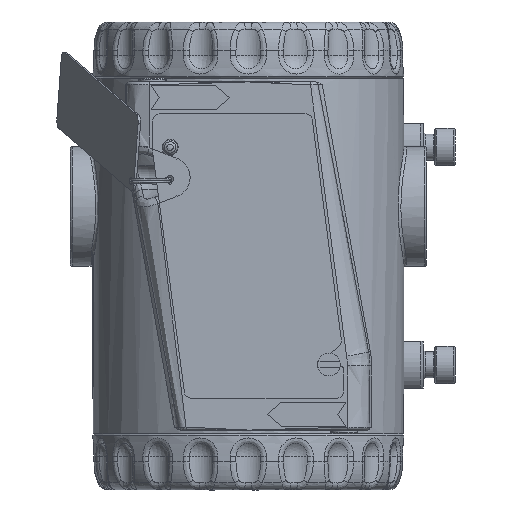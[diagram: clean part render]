
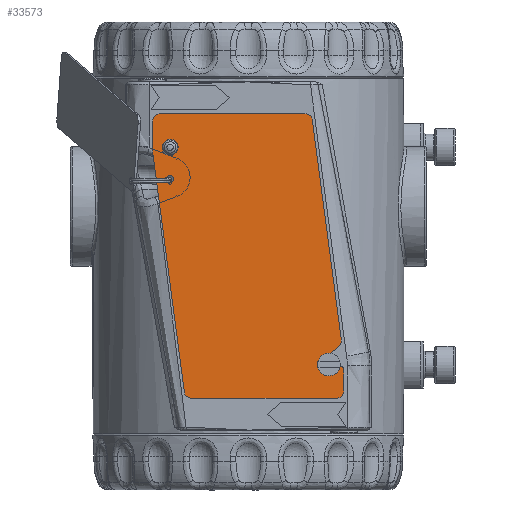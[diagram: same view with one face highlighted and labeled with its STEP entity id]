
A CAD part, left-side view. The second image highlights one B-rep face of the part: STEP entity #33573.
In plain terms, the highlighted planar face has unit normal (-1, 0, 0) as drawn and (0, 0, 1) by its records, which use the part's own axes.
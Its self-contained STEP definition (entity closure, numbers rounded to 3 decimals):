
#1078=PLANE('',#37589);
#1604=FACE_BOUND('',#9123,.T.);
#1605=FACE_BOUND('',#9124,.T.);
#2938=LINE('',#73711,#4483);
#2942=LINE('',#73723,#4487);
#2946=LINE('',#73735,#4491);
#2950=LINE('',#73747,#4495);
#2954=LINE('',#73759,#4499);
#2957=LINE('',#73765,#4502);
#2961=LINE('',#73777,#4506);
#2965=LINE('',#73788,#4510);
#4483=VECTOR('',#45830,10.);
#4487=VECTOR('',#45842,10.);
#4491=VECTOR('',#45854,10.);
#4495=VECTOR('',#45866,10.);
#4499=VECTOR('',#45878,10.);
#4502=VECTOR('',#45883,10.);
#4506=VECTOR('',#45895,10.);
#4510=VECTOR('',#45907,10.);
#6955=FACE_OUTER_BOUND('',#9122,.T.);
#9122=EDGE_LOOP('',(#28859,#28860,#28861,#28862,#28863,#28864,#28865,#28866,
#28867,#28868,#28869,#28870,#28871,#28872,#28873));
#9123=EDGE_LOOP('',(#28874));
#9124=EDGE_LOOP('',(#28875));
#11362=CIRCLE('',#37555,1.35);
#11364=CIRCLE('',#37558,1.);
#11365=CIRCLE('',#37560,2.);
#11367=CIRCLE('',#37564,2.);
#11369=CIRCLE('',#37568,1.);
#11371=CIRCLE('',#37572,2.);
#11373=CIRCLE('',#37576,2.);
#11375=CIRCLE('',#37581,2.);
#11377=CIRCLE('',#37585,2.);
#15359=VERTEX_POINT('',#73691);
#15361=VERTEX_POINT('',#73697);
#15362=VERTEX_POINT('',#73701);
#15363=VERTEX_POINT('',#73702);
#15366=VERTEX_POINT('',#73710);
#15368=VERTEX_POINT('',#73716);
#15370=VERTEX_POINT('',#73722);
#15372=VERTEX_POINT('',#73728);
#15374=VERTEX_POINT('',#73734);
#15376=VERTEX_POINT('',#73740);
#15378=VERTEX_POINT('',#73746);
#15380=VERTEX_POINT('',#73752);
#15382=VERTEX_POINT('',#73758);
#15384=VERTEX_POINT('',#73764);
#15386=VERTEX_POINT('',#73770);
#15388=VERTEX_POINT('',#73776);
#15390=VERTEX_POINT('',#73782);
#19937=EDGE_CURVE('',#15359,#15359,#11362,.T.);
#19940=EDGE_CURVE('',#15361,#15361,#11364,.T.);
#19941=EDGE_CURVE('',#15362,#15363,#11365,.T.);
#19945=EDGE_CURVE('',#15363,#15366,#2938,.T.);
#19948=EDGE_CURVE('',#15366,#15368,#11367,.T.);
#19951=EDGE_CURVE('',#15368,#15370,#2942,.T.);
#19954=EDGE_CURVE('',#15370,#15372,#11369,.T.);
#19957=EDGE_CURVE('',#15372,#15374,#2946,.T.);
#19960=EDGE_CURVE('',#15374,#15376,#11371,.T.);
#19963=EDGE_CURVE('',#15376,#15378,#2950,.T.);
#19966=EDGE_CURVE('',#15378,#15380,#11373,.T.);
#19969=EDGE_CURVE('',#15380,#15382,#2954,.T.);
#19972=EDGE_CURVE('',#15382,#15384,#2957,.T.);
#19975=EDGE_CURVE('',#15384,#15386,#11375,.T.);
#19978=EDGE_CURVE('',#15386,#15388,#2961,.T.);
#19981=EDGE_CURVE('',#15388,#15390,#11377,.T.);
#19984=EDGE_CURVE('',#15390,#15362,#2965,.T.);
#28859=ORIENTED_EDGE('',*,*,#19941,.F.);
#28860=ORIENTED_EDGE('',*,*,#19984,.F.);
#28861=ORIENTED_EDGE('',*,*,#19981,.F.);
#28862=ORIENTED_EDGE('',*,*,#19978,.F.);
#28863=ORIENTED_EDGE('',*,*,#19975,.F.);
#28864=ORIENTED_EDGE('',*,*,#19972,.F.);
#28865=ORIENTED_EDGE('',*,*,#19969,.F.);
#28866=ORIENTED_EDGE('',*,*,#19966,.F.);
#28867=ORIENTED_EDGE('',*,*,#19963,.F.);
#28868=ORIENTED_EDGE('',*,*,#19960,.F.);
#28869=ORIENTED_EDGE('',*,*,#19957,.F.);
#28870=ORIENTED_EDGE('',*,*,#19954,.F.);
#28871=ORIENTED_EDGE('',*,*,#19951,.F.);
#28872=ORIENTED_EDGE('',*,*,#19948,.F.);
#28873=ORIENTED_EDGE('',*,*,#19945,.F.);
#28874=ORIENTED_EDGE('',*,*,#19937,.T.);
#28875=ORIENTED_EDGE('',*,*,#19940,.T.);
#33573=ADVANCED_FACE('',(#6955,#1604,#1605),#1078,.T.);
#37555=AXIS2_PLACEMENT_3D('',#73693,#45811,#45812);
#37558=AXIS2_PLACEMENT_3D('',#73699,#45818,#45819);
#37560=AXIS2_PLACEMENT_3D('',#73703,#45822,#45823);
#37564=AXIS2_PLACEMENT_3D('',#73717,#45835,#45836);
#37568=AXIS2_PLACEMENT_3D('',#73729,#45847,#45848);
#37572=AXIS2_PLACEMENT_3D('',#73741,#45859,#45860);
#37576=AXIS2_PLACEMENT_3D('',#73753,#45871,#45872);
#37581=AXIS2_PLACEMENT_3D('',#73771,#45888,#45889);
#37585=AXIS2_PLACEMENT_3D('',#73783,#45900,#45901);
#37589=AXIS2_PLACEMENT_3D('',#73791,#45911,#45912);
#45811=DIRECTION('center_axis',(0.,0.,-1.));
#45812=DIRECTION('ref_axis',(-1.,0.,0.));
#45818=DIRECTION('center_axis',(0.,0.,-1.));
#45819=DIRECTION('ref_axis',(-1.,0.,0.));
#45822=DIRECTION('center_axis',(0.,0.,-1.));
#45823=DIRECTION('ref_axis',(0.766,0.643,0.));
#45830=DIRECTION('',(0.643,-0.766,0.));
#45835=DIRECTION('center_axis',(0.,0.,1.));
#45836=DIRECTION('ref_axis',(0.766,0.643,0.));
#45842=DIRECTION('',(-0.643,0.766,0.));
#45847=DIRECTION('center_axis',(0.,0.,-1.));
#45848=DIRECTION('ref_axis',(0.,1.,0.));
#45854=DIRECTION('',(1.,0.,0.));
#45859=DIRECTION('center_axis',(0.,0.,-1.));
#45860=DIRECTION('ref_axis',(1.,0.,0.));
#45866=DIRECTION('',(0.,-1.,0.));
#45871=DIRECTION('center_axis',(0.,0.,-1.));
#45872=DIRECTION('ref_axis',(0.131,-0.991,0.));
#45878=DIRECTION('',(-0.991,-0.131,0.));
#45883=DIRECTION('',(-1.,0.,0.));
#45888=DIRECTION('center_axis',(0.,0.,-1.));
#45889=DIRECTION('ref_axis',(-1.,0.,0.));
#45895=DIRECTION('',(0.,1.,0.));
#45900=DIRECTION('center_axis',(0.,0.,-1.));
#45901=DIRECTION('ref_axis',(-0.131,0.991,0.));
#45907=DIRECTION('',(0.991,0.131,0.));
#45911=DIRECTION('center_axis',(0.,0.,1.));
#45912=DIRECTION('ref_axis',(1.,0.,0.));
#73691=CARTESIAN_POINT('',(10.35,4.599,0.7));
#73693=CARTESIAN_POINT('Origin',(9.,4.599,0.7));
#73697=CARTESIAN_POINT('',(18.4,4.599,0.7));
#73699=CARTESIAN_POINT('Origin',(17.4,4.599,0.7));
#73701=CARTESIAN_POINT('',(60.389,50.327,0.7));
#73702=CARTESIAN_POINT('',(62.182,49.63,0.7));
#73703=CARTESIAN_POINT('Origin',(60.65,48.344,0.7));
#73710=CARTESIAN_POINT('',(65.468,45.714,0.7));
#73711=CARTESIAN_POINT('',(65.468,45.714,0.7));
#73716=CARTESIAN_POINT('',(68.532,48.286,0.7));
#73717=CARTESIAN_POINT('Origin',(67.,47.,0.7));
#73722=CARTESIAN_POINT('',(67.633,49.357,0.7));
#73723=CARTESIAN_POINT('',(67.633,49.357,0.7));
#73728=CARTESIAN_POINT('',(68.399,51.,0.7));
#73729=CARTESIAN_POINT('Origin',(68.399,50.,0.7));
#73734=CARTESIAN_POINT('',(74.,51.,0.7));
#73735=CARTESIAN_POINT('',(74.,51.,0.7));
#73740=CARTESIAN_POINT('',(76.,49.,0.7));
#73741=CARTESIAN_POINT('Origin',(74.,49.,0.7));
#73746=CARTESIAN_POINT('',(76.,10.377,0.7));
#73747=CARTESIAN_POINT('',(76.,10.377,0.7));
#73752=CARTESIAN_POINT('',(74.261,8.394,0.7));
#73753=CARTESIAN_POINT('Origin',(74.,10.377,0.7));
#73758=CARTESIAN_POINT('',(10.5,0.,0.7));
#73759=CARTESIAN_POINT('',(10.5,0.,0.7));
#73764=CARTESIAN_POINT('',(2.,0.,0.7));
#73765=CARTESIAN_POINT('',(2.,0.,0.7));
#73770=CARTESIAN_POINT('',(0.,2.,0.7));
#73771=CARTESIAN_POINT('Origin',(2.,2.,0.7));
#73776=CARTESIAN_POINT('',(0.,40.623,0.7));
#73777=CARTESIAN_POINT('',(0.,40.623,0.7));
#73782=CARTESIAN_POINT('',(1.739,42.606,0.7));
#73783=CARTESIAN_POINT('Origin',(2.,40.623,0.7));
#73788=CARTESIAN_POINT('',(60.389,50.327,0.7));
#73791=CARTESIAN_POINT('Origin',(39.077,26.228,0.7));
